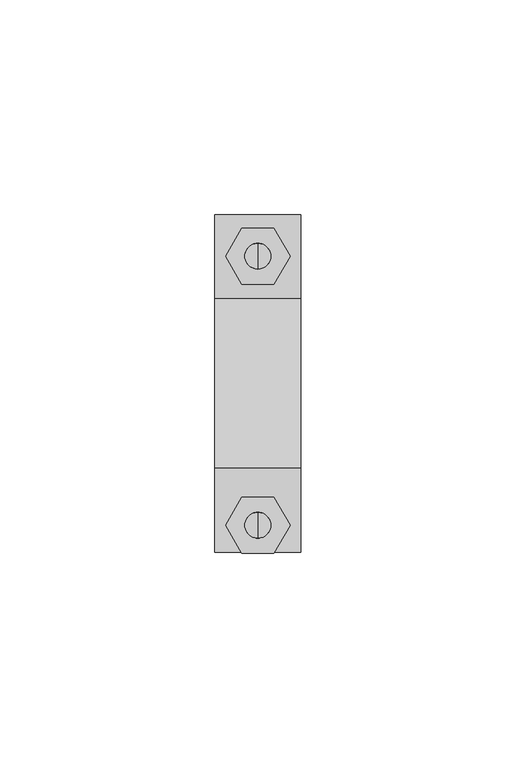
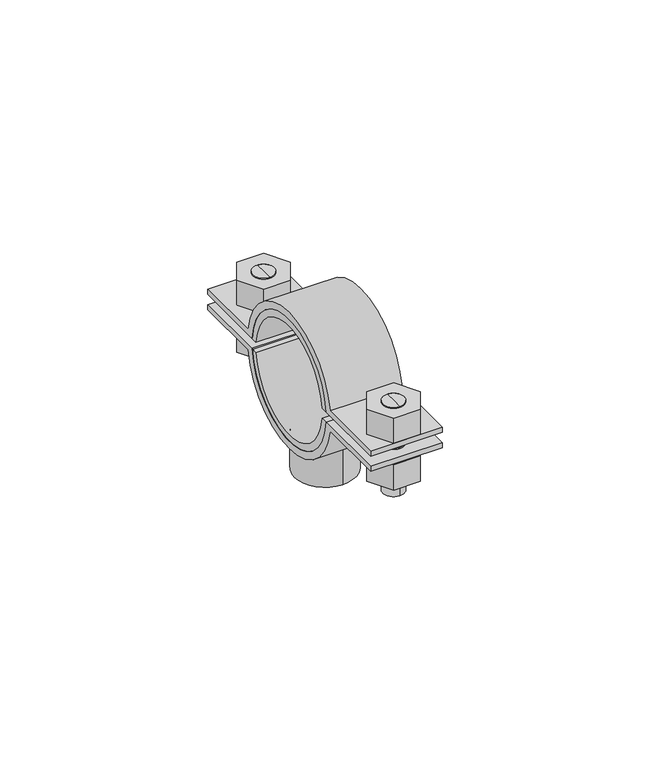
"""IFC4 building model written with IfcOpenShell, lengths in millimetres: valve geometry, Superfix DG2 Clamp Extra (based on pipe) : Superfix DG2 Clamp Extra (based on pipe)."""

from ifc_helpers import new_model, si_unit, point, frame, frame_2d, origin, origin_2d, place, context, project, spatial, polyline, circle_curve, trimmed, segment, composite_curve, outline, extrude, source, transform, mapped, element, save
from ifc_brep_helpers import plane_surface, cylinder_surface, advanced_brep


def valve_ec993703(model_context):
    return source(origin(), model_context, "Body", "SolidModel", [
        advanced_brep(
        [(0.0, 32.625, 342.9002332), (0.0, 26.625, 342.9002332), (0.0, 26.625, 357.0002332), (0.0, 32.625, 357.0002332), (0.0, 29.625, 342.9002332)],
        [
            (0, 1, circle_curve(frame((0.0, 29.625, 342.9002332), z_axis=(0.0, 0.0, 1.0), x_axis=(0.0, 1.0, 0.0)), 3.0)),
            (1, 2),
            (2, 3, circle_curve(frame((0.0, 29.625, 357.0002332), z_axis=(0.0, 0.0, -1.0), x_axis=(0.0, 1.0, 0.0)), 3.0)),
            (3, 0),
            (1, 0, circle_curve(frame((0.0, 29.625, 342.9002332), z_axis=(0.0, 0.0, 1.0), x_axis=(0.0, 1.0, 0.0)), 3.0)),
            (3, 2, circle_curve(frame((0.0, 29.625, 357.0002332), z_axis=(0.0, 0.0, -1.0), x_axis=(0.0, 1.0, 0.0)), 3.0)),
            (0, 4),
            (4, 1),
        ],
        [
            cylinder_surface(frame((0.0, 29.625, 356.7808426), z_axis=(0.0, 0.0, 1.0), x_axis=(0.0, 1.0, 0.0)), 3.0),
            plane_surface(frame((0.0, 29.625, 342.9002332), z_axis=(0.0, 0.0, -1.0), x_axis=(0.0, 1.0, 0.0))),
            plane_surface(frame((13.75, -39.25, 357.0002332), z_axis=(0.0, 0.0, 1.0), x_axis=(-1.0, 0.0, 0.0))),
        ],
        [
            (0, [[1, 2, 3, 4]]),
            (0, [[5, -4, 6, -2]]),
            (1, [[-1, 7, 8]]),
            (1, [[-5, -8, -7]]),
            (2, [[-3, -6]]),
        ],
    ),
        advanced_brep(
        [(0.0, 26.625, 369.1002332), (0.0, 32.625, 369.1002332), (0.0, 32.625, 360.0002332), (0.0, 26.625, 360.0002332), (0.0, 29.625, 369.1002332)],
        [
            (0, 1, circle_curve(frame((0.0, 29.625, 369.1002332), z_axis=(0.0, 0.0, -1.0), x_axis=(0.0, 1.0, 0.0)), 3.0)),
            (1, 2),
            (2, 3, circle_curve(frame((0.0, 29.625, 360.0002332), z_axis=(0.0, 0.0, 1.0), x_axis=(0.0, 1.0, 0.0)), 3.0)),
            (3, 0),
            (1, 0, circle_curve(frame((0.0, 29.625, 369.1002332), z_axis=(0.0, 0.0, -1.0), x_axis=(0.0, 1.0, 0.0)), 3.0)),
            (3, 2, circle_curve(frame((0.0, 29.625, 360.0002332), z_axis=(0.0, 0.0, 1.0), x_axis=(0.0, 1.0, 0.0)), 3.0)),
            (0, 4),
            (4, 1),
        ],
        [
            cylinder_surface(frame((0.0, 29.625, 356.7808426), z_axis=(0.0, 0.0, 1.0), x_axis=(0.0, 1.0, 0.0)), 3.0),
            plane_surface(frame((0.0, 29.625, 369.1002332), z_axis=(0.0, 0.0, 1.0), x_axis=(0.0, 1.0, 0.0))),
            plane_surface(frame((13.75, 39.25, 360.0002332), z_axis=(0.0, 0.0, -1.0), x_axis=(-1.0, 0.0, 0.0))),
        ],
        [
            (0, [[1, 2, 3, 4]]),
            (0, [[5, -4, 6, -2]]),
            (1, [[-1, 7, 8]]),
            (1, [[-5, -8, -7]]),
            (2, [[-3, -6]]),
        ],
    ),
        advanced_brep(
        [(0.0, -36.0, 369.1002332), (0.0, -30.0, 369.1002332), (0.0, -30.0, 360.0002332), (0.0, -36.0, 360.0002332), (0.0, -33.0, 369.1002332)],
        [
            (0, 1, circle_curve(frame((0.0, -33.0, 369.1002332), z_axis=(0.0, 0.0, -1.0), x_axis=(0.0, -1.0, 0.0)), 3.0)),
            (1, 2),
            (2, 3, circle_curve(frame((0.0, -33.0, 360.0002332), z_axis=(0.0, 0.0, 1.0), x_axis=(0.0, -1.0, 0.0)), 3.0)),
            (3, 0),
            (1, 0, circle_curve(frame((0.0, -33.0, 369.1002332), z_axis=(0.0, 0.0, -1.0), x_axis=(0.0, -1.0, 0.0)), 3.0)),
            (3, 2, circle_curve(frame((0.0, -33.0, 360.0002332), z_axis=(0.0, 0.0, 1.0), x_axis=(0.0, -1.0, 0.0)), 3.0)),
            (0, 4),
            (4, 1),
        ],
        [
            cylinder_surface(frame((0.0, -33.0, 356.7808426), z_axis=(0.0, 0.0, -1.0), x_axis=(0.0, -1.0, 0.0)), 3.0),
            plane_surface(frame((0.0, -33.0, 369.1002332), z_axis=(0.0, 0.0, 1.0), x_axis=(0.0, -1.0, 0.0))),
            plane_surface(frame((13.75, 39.25, 360.0002332), z_axis=(0.0, 0.0, -1.0), x_axis=(-1.0, 0.0, 0.0))),
        ],
        [
            (0, [[1, 2, 3, 4]]),
            (0, [[5, -4, 6, -2]]),
            (1, [[-1, 7, 8]]),
            (1, [[-5, -8, -7]]),
            (2, [[-3, -6]]),
        ],
    ),
        advanced_brep(
        [(0.0, -30.0, 342.9002332), (0.0, -36.0, 342.9002332), (0.0, -36.0, 357.0002332), (0.0, -30.0, 357.0002332), (0.0, -33.0, 342.9002332)],
        [
            (0, 1, circle_curve(frame((0.0, -33.0, 342.9002332), z_axis=(0.0, 0.0, 1.0), x_axis=(0.0, -1.0, 0.0)), 3.0)),
            (1, 2),
            (2, 3, circle_curve(frame((0.0, -33.0, 357.0002332), z_axis=(0.0, 0.0, -1.0), x_axis=(0.0, -1.0, 0.0)), 3.0)),
            (3, 0),
            (1, 0, circle_curve(frame((0.0, -33.0, 342.9002332), z_axis=(0.0, 0.0, 1.0), x_axis=(0.0, -1.0, 0.0)), 3.0)),
            (3, 2, circle_curve(frame((0.0, -33.0, 357.0002332), z_axis=(0.0, 0.0, -1.0), x_axis=(0.0, -1.0, 0.0)), 3.0)),
            (0, 4),
            (4, 1),
        ],
        [
            cylinder_surface(frame((0.0, -33.0, 356.7808426), z_axis=(0.0, 0.0, -1.0), x_axis=(0.0, -1.0, 0.0)), 3.0),
            plane_surface(frame((0.0, -33.0, 342.9002332), z_axis=(0.0, 0.0, -1.0), x_axis=(0.0, -1.0, 0.0))),
            plane_surface(frame((13.75, -39.25, 357.0002332), z_axis=(0.0, 0.0, 1.0), x_axis=(-1.0, 0.0, 0.0))),
        ],
        [
            (0, [[1, 2, 3, 4]]),
            (0, [[5, -4, 6, -2]]),
            (1, [[-1, 7, 8]]),
            (1, [[-5, -8, -7]]),
            (2, [[-3, -6]]),
        ],
    ),
        extrude(outline(composite_curve([segment(trimmed(circle_curve(frame_2d((0.0, 358.5002332)), 18.0), [point((-17.9373911, 357.0002332))], [point((17.9373911, 357.0002332))], True, "CARTESIAN"), True, "CONTINUOUS"), segment(polyline([(17.9373911, 357.0002332), (39.25, 357.0002332), (39.25, 355.5002332), (19.7737199, 355.5002332)]), True, "CONTINUOUS"), segment(trimmed(circle_curve(frame_2d((0.0, 358.5002332)), 20.0), [point((19.7737199, 355.5002332))], [point((-19.7737199, 355.5002332))], False, "CARTESIAN"), True, "CONTINUOUS"), segment(polyline([(-19.7737199, 355.5002332), (-39.25, 355.5002332), (-39.25, 357.0002332), (-17.9373911, 357.0002332)]), True, "CONTINUOUS")], self_intersect=False)), frame((-10.0, 0.0, 0.0), z_axis=(1.0, 0.0, 0.0), x_axis=(0.0, 1.0, 0.0)), (0.0, 0.0, 1.0), 20.0),
        extrude(outline(composite_curve([segment(trimmed(circle_curve(frame_2d((0.0, 358.5002332)), 18.0), [point((17.9373911, 360.0002332))], [point((-17.9373911, 360.0002332))], True, "CARTESIAN"), True, "CONTINUOUS"), segment(polyline([(-17.9373911, 360.0002332), (-39.25, 360.0002332), (-39.25, 361.5002332), (-19.7737199, 361.5002332)]), True, "CONTINUOUS"), segment(trimmed(circle_curve(frame_2d((0.0, 358.5002332)), 20.0), [point((-19.7737199, 361.5002332))], [point((19.7737199, 361.5002332))], False, "CARTESIAN"), True, "CONTINUOUS"), segment(polyline([(19.7737199, 361.5002332), (39.25, 361.5002332), (39.25, 360.0002332), (17.9373911, 360.0002332)]), True, "CONTINUOUS")], self_intersect=False)), frame((-10.0, 0.0, 0.0), z_axis=(1.0, 0.0, 0.0), x_axis=(0.0, 1.0, 0.0)), (0.0, 0.0, 1.0), 20.0),
        extrude(outline(polyline([(7.5055535, -33.0), (3.7527767, -39.5), (-3.7527767, -39.5), (-7.5055535, -33.0), (-3.7527767, -26.5), (3.7527767, -26.5), (7.5055535, -33.0)]), holes=[composite_curve([segment(trimmed(circle_curve(frame_2d((0.0, -33.0)), 3.0), [point((3.0, -33.0))], [point((-3.0, -33.0))], True, "CARTESIAN"), True, "CONTINUOUS"), segment(trimmed(circle_curve(frame_2d((0.0, -33.0)), 3.0), [point((-3.0, -33.0))], [point((3.0, -33.0))], True, "CARTESIAN"), True, "CONTINUOUS")], self_intersect=False)]), frame((0.0, 0.0, 361.5002332), z_axis=(0.0, 0.0, 1.0), x_axis=(1.0, 0.0, 0.0)), (0.0, 0.0, 1.0), 7.6),
        extrude(outline(polyline([(7.5055535, 29.625), (3.7527767, 23.125), (-3.7527767, 23.125), (-7.5055535, 29.625), (-3.7527767, 36.125), (3.7527767, 36.125), (7.5055535, 29.625)]), holes=[composite_curve([segment(trimmed(circle_curve(frame_2d((0.0, 29.625)), 3.0), [point((3.0, 29.625))], [point((-3.0, 29.625))], True, "CARTESIAN"), True, "CONTINUOUS"), segment(trimmed(circle_curve(frame_2d((0.0, 29.625)), 3.0), [point((-3.0, 29.625))], [point((3.0, 29.625))], True, "CARTESIAN"), True, "CONTINUOUS")], self_intersect=False)]), frame((0.0, 0.0, 361.5002332), z_axis=(0.0, 0.0, 1.0), x_axis=(1.0, 0.0, 0.0)), (0.0, 0.0, 1.0), 7.6),
        extrude(outline(polyline([(7.5055535, -33.0), (3.7527767, -39.5), (-3.7527767, -39.5), (-7.5055535, -33.0), (-3.7527767, -26.5), (3.7527767, -26.5), (7.5055535, -33.0)]), holes=[composite_curve([segment(trimmed(circle_curve(frame_2d((0.0, -33.0)), 3.0), [point((3.0, -33.0))], [point((-3.0, -33.0))], True, "CARTESIAN"), True, "CONTINUOUS"), segment(trimmed(circle_curve(frame_2d((0.0, -33.0)), 3.0), [point((-3.0, -33.0))], [point((3.0, -33.0))], True, "CARTESIAN"), True, "CONTINUOUS")], self_intersect=False)]), frame((0.0, 0.0, 347.9002332), z_axis=(0.0, 0.0, 1.0), x_axis=(1.0, 0.0, 0.0)), (0.0, 0.0, 1.0), 7.6),
        extrude(outline(polyline([(7.5055535, 29.625), (3.7527767, 23.125), (-3.7527767, 23.125), (-7.5055535, 29.625), (-3.7527767, 36.125), (3.7527767, 36.125), (7.5055535, 29.625)]), holes=[composite_curve([segment(trimmed(circle_curve(frame_2d((0.0, 29.625)), 3.0), [point((3.0, 29.625))], [point((-3.0, 29.625))], True, "CARTESIAN"), True, "CONTINUOUS"), segment(trimmed(circle_curve(frame_2d((0.0, 29.625)), 3.0), [point((-3.0, 29.625))], [point((3.0, 29.625))], True, "CARTESIAN"), True, "CONTINUOUS")], self_intersect=False)]), frame((0.0, 0.0, 347.9002332), z_axis=(0.0, 0.0, 1.0), x_axis=(1.0, 0.0, 0.0)), (0.0, 0.0, 1.0), 7.6),
        extrude(outline(composite_curve([segment(trimmed(circle_curve(origin_2d(), 8.5), [point((0.0, 8.5))], [point((0.0, -8.5))], False, "CARTESIAN"), True, "CONTINUOUS"), segment(trimmed(circle_curve(origin_2d(), 8.5), [point((0.0, -8.5))], [point((0.0, 8.5))], False, "CARTESIAN"), True, "CONTINUOUS")], self_intersect=False), holes=[composite_curve([segment(trimmed(circle_curve(origin_2d(), 5.0), [point((0.0, 5.0))], [point((0.0, -5.0))], True, "CARTESIAN"), True, "CONTINUOUS"), segment(trimmed(circle_curve(origin_2d(), 5.0), [point((0.0, -5.0))], [point((0.0, 5.0))], True, "CARTESIAN"), True, "CONTINUOUS")], self_intersect=False)]), frame((0.0, 0.0, 329.5002332), z_axis=(0.0, 0.0, 1.0), x_axis=(1.0, 0.0, 0.0)), (0.0, 0.0, 1.0), 11.5),
        extrude(outline(composite_curve([segment(trimmed(circle_curve(frame_2d((0.0, 358.5002332)), 16.0), [point((15.9295323, 360.0002332))], [point((-15.9295323, 360.0002332))], True, "CARTESIAN"), True, "CONTINUOUS"), segment(polyline([(-15.9295323, 360.0002332), (-17.9373911, 360.0002332)]), True, "CONTINUOUS"), segment(trimmed(circle_curve(frame_2d((0.0, 358.5002332)), 18.0), [point((-17.9373911, 360.0002332))], [point((17.9373911, 360.0002332))], False, "CARTESIAN"), True, "CONTINUOUS"), segment(polyline([(17.9373911, 360.0002332), (15.9295323, 360.0002332)]), True, "CONTINUOUS")], self_intersect=False)), frame((-10.0, 0.0, 0.0), z_axis=(1.0, 0.0, 0.0), x_axis=(0.0, 1.0, 0.0)), (0.0, 0.0, 1.0), 20.0),
        extrude(outline(composite_curve([segment(polyline([(15.9295323, 357.0002332), (17.9373911, 357.0002332)]), True, "CONTINUOUS"), segment(trimmed(circle_curve(frame_2d((0.0, 358.5002332)), 18.0), [point((17.9373911, 357.0002332))], [point((-17.9373911, 357.0002332))], False, "CARTESIAN"), True, "CONTINUOUS"), segment(polyline([(-17.9373911, 357.0002332), (-15.9295323, 357.0002332)]), True, "CONTINUOUS"), segment(trimmed(circle_curve(frame_2d((0.0, 358.5002332)), 16.0), [point((-15.9295323, 357.0002332))], [point((15.9295323, 357.0002332))], True, "CARTESIAN"), True, "CONTINUOUS")], self_intersect=False)), frame((-10.0, 0.0, 0.0), z_axis=(1.0, 0.0, 0.0), x_axis=(0.0, 1.0, 0.0)), (0.0, 0.0, 1.0), 20.0),
    ])


if __name__ == "__main__":
    model = new_model("IFC4")
    model_context = context("Model", 3, world=origin())
    ifc_project = project(units=[si_unit("LENGTHUNIT", "METRE", prefix="MILLI")], contexts=[model_context])
    site = spatial("IfcSite", under=ifc_project)
    building = spatial("IfcBuilding", under=site)
    placement = place(None, origin())
    valve_shape = valve_ec993703(model_context)
    element("IfcValve", 1, ObjectType="Superfix DG2 Clamp Extra (based on pipe) : Superfix DG2 Clamp Extra (based on pipe)", at=placement, inside=building, context=model_context, shape_type="MappedRepresentation", body=[
        mapped(valve_shape, transform((0.0, 0.0, 0.0), x_axis=(1.0, 0.0, 0.0), y_axis=(0.0, 1.0, 0.0), z_axis=(0.0, 0.0, 1.0))),
    ])
    save(model, "model.ifc")
